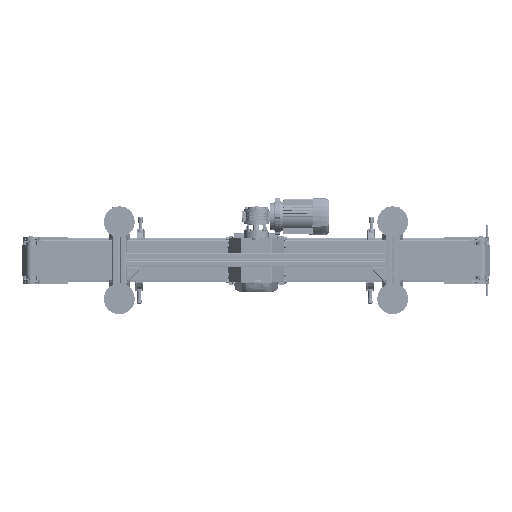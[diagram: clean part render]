
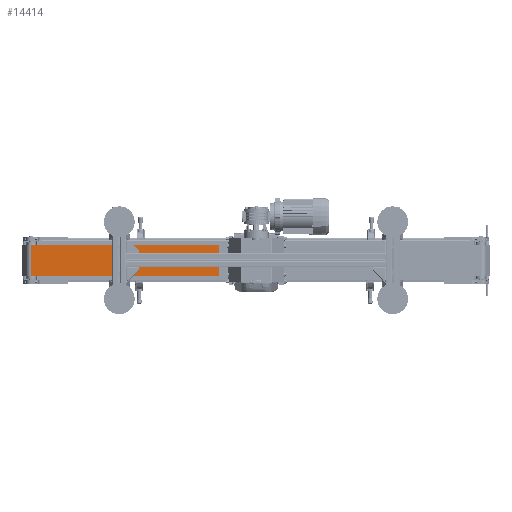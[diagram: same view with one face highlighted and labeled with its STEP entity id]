
A CAD part, front view. The second image highlights one B-rep face of the part: STEP entity #14414.
In plain terms, the highlighted planar face has unit normal (0, -1, 0).
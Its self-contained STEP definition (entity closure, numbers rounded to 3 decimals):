
#2384 = CARTESIAN_POINT ( 'NONE',  ( -730., -27., 50. ) ) ;
#14414 = ADVANCED_FACE ( 'NONE', ( #72499 ), #188058, .F. ) ;
#32115 = VECTOR ( 'NONE', #65722, 1000. ) ;
#34071 = ORIENTED_EDGE ( 'NONE', *, *, #251755, .F. ) ;
#54659 = CARTESIAN_POINT ( 'NONE',  ( -59., -27., 50. ) ) ;
#63353 = EDGE_LOOP ( 'NONE', ( #109823, #67185, #34071, #86416 ) ) ;
#65722 = DIRECTION ( 'NONE',  ( 1., 0., 0. ) ) ;
#67185 = ORIENTED_EDGE ( 'NONE', *, *, #239251, .F. ) ;
#68510 = DIRECTION ( 'NONE',  ( 0., 0., -1. ) ) ;
#72499 = FACE_OUTER_BOUND ( 'NONE', #63353, .T. ) ;
#75381 = CARTESIAN_POINT ( 'NONE',  ( -730., -27., -50. ) ) ;
#78056 = LINE ( 'NONE', #54659, #128853 ) ;
#86416 = ORIENTED_EDGE ( 'NONE', *, *, #133573, .T. ) ;
#93688 = VERTEX_POINT ( 'NONE', #235219 ) ;
#97418 = DIRECTION ( 'NONE',  ( 0., 1., 0. ) ) ;
#101921 = LINE ( 'NONE', #126893, #118718 ) ;
#105009 = DIRECTION ( 'NONE',  ( 1., 0., 0. ) ) ;
#109823 = ORIENTED_EDGE ( 'NONE', *, *, #165269, .T. ) ;
#114089 = CARTESIAN_POINT ( 'NONE',  ( -730., -27., 50. ) ) ;
#118718 = VECTOR ( 'NONE', #105009, 1000. ) ;
#126893 = CARTESIAN_POINT ( 'NONE',  ( -730., -27., -50. ) ) ;
#128853 = VECTOR ( 'NONE', #68510, 1000. ) ;
#133573 = EDGE_CURVE ( 'NONE', #198159, #171352, #216127, .T. ) ;
#135625 = AXIS2_PLACEMENT_3D ( 'NONE', #141204, #97418, #144291 ) ;
#141204 = CARTESIAN_POINT ( 'NONE',  ( -730., -27., 50. ) ) ;
#144291 = DIRECTION ( 'NONE',  ( -1., 0., 0. ) ) ;
#144700 = VERTEX_POINT ( 'NONE', #292266 ) ;
#163116 = DIRECTION ( 'NONE',  ( 0., 0., -1. ) ) ;
#165269 = EDGE_CURVE ( 'NONE', #171352, #144700, #101921, .T. ) ;
#166810 = VECTOR ( 'NONE', #163116, 1000. ) ;
#171352 = VERTEX_POINT ( 'NONE', #75381 ) ;
#188058 = PLANE ( 'NONE',  #135625 ) ;
#198159 = VERTEX_POINT ( 'NONE', #206521 ) ;
#206521 = CARTESIAN_POINT ( 'NONE',  ( -730., -27., 50. ) ) ;
#216127 = LINE ( 'NONE', #2384, #166810 ) ;
#235219 = CARTESIAN_POINT ( 'NONE',  ( -59., -27., 50. ) ) ;
#239251 = EDGE_CURVE ( 'NONE', #93688, #144700, #78056, .T. ) ;
#251755 = EDGE_CURVE ( 'NONE', #198159, #93688, #285782, .T. ) ;
#285782 = LINE ( 'NONE', #114089, #32115 ) ;
#292266 = CARTESIAN_POINT ( 'NONE',  ( -59., -27., -50. ) ) ;
